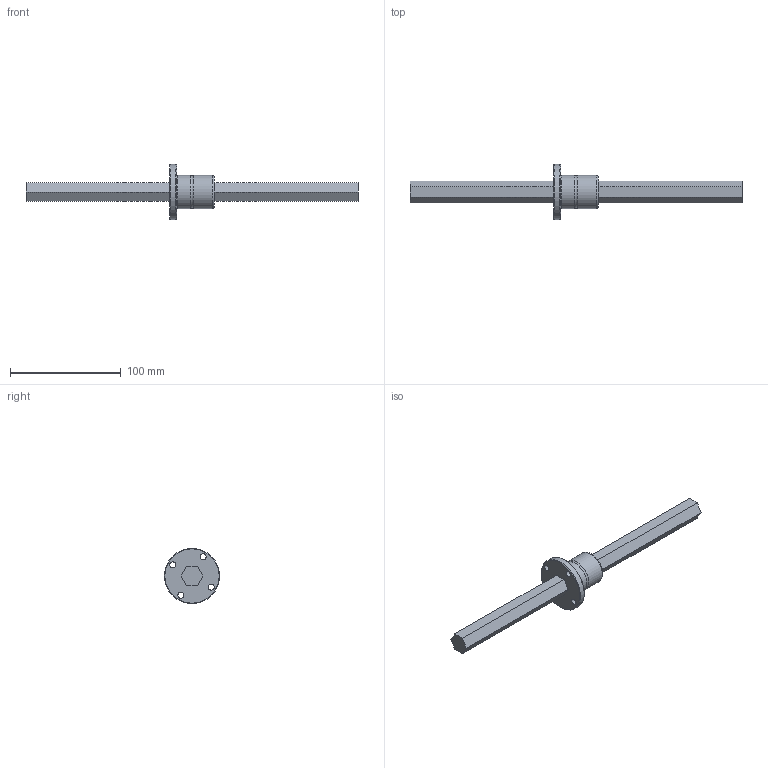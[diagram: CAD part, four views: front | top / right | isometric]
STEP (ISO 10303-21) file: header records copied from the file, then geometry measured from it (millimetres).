
FILE_DESCRIPTION((''),'2;1');
FILE_NAME('D:\製品 (図面)\カタログ用3D\ネジ関連\STEP形式\HTF\HTF17.stp','2010-06-01T16:48:11',('Tsuchiya'),(''),'Autodesk Inventor 10','Autodesk Inventor 10','');
FILE_SCHEMA(('AUTOMOTIVE_DESIGN { 1 0 10303 214 1 1 1 1 }'));
Length unit declared in the file: millimetre
Products named in the file (3): HTF17; HTF171; HTF172
Assembly tree (2 placements, depth 2):
  HTF17
    HTF171
    HTF172
Bounding box: 300 x 50 x 50 mm (x, y, z)
Volume: 99951.4 mm3; surface area: 28355.3 mm2
Topology: 2 solids, 2 shells, 39 faces, 96 edges, 64 vertices
Faces by surface type: plane 25, cylinder 9, cone 2, bspline 2, torus 1
Full cylindrical faces by diameter (mm): 1.5 x1, 5.5 x4, 20.5 x1, 30 x2, 50 x1
Entity records: 1332 total; most frequent: CARTESIAN_POINT 396, DIRECTION 178, ORIENTED_EDGE 152, EDGE_CURVE 76, EDGE_LOOP 68, AXIS2_PLACEMENT_3D 62, VERTEX_POINT 58, VECTOR 54
